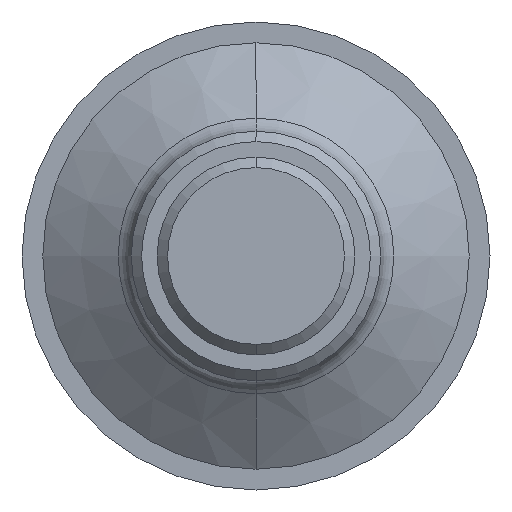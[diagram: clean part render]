
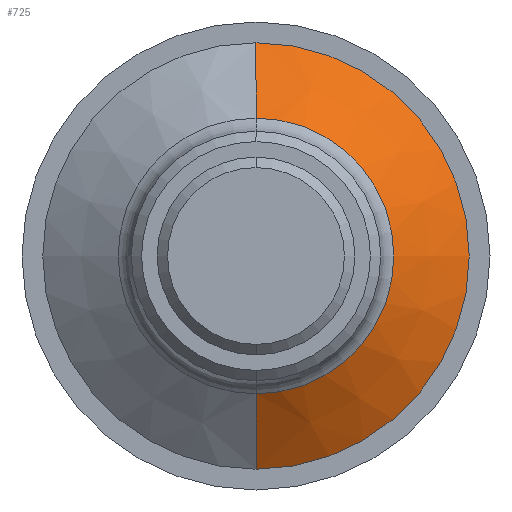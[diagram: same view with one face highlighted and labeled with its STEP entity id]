
A CAD part, front view. The second image highlights one B-rep face of the part: STEP entity #725.
In plain terms, the highlighted conical face has half-angle 54.545 degrees and reference radius 13.26 mm.
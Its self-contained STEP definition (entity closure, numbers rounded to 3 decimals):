
#56 = ORIENTED_EDGE ( 'NONE', *, *, #1582, .F. ) ;
#210 = CARTESIAN_POINT ( 'NONE',  ( 0., -14.27, -13.26 ) ) ;
#242 = CARTESIAN_POINT ( 'NONE',  ( 0., -14.27, 0. ) ) ;
#522 = DIRECTION ( 'NONE',  ( 0., -1., 0. ) ) ;
#531 = AXIS2_PLACEMENT_3D ( 'NONE', #242, #522, #769 ) ;
#545 = VERTEX_POINT ( 'NONE', #2261 ) ;
#577 = CARTESIAN_POINT ( 'NONE',  ( 0., -9.114, 0. ) ) ;
#651 = ORIENTED_EDGE ( 'NONE', *, *, #1293, .F. ) ;
#670 = CARTESIAN_POINT ( 'NONE',  ( 0., -9.114, 20.501 ) ) ;
#688 = ORIENTED_EDGE ( 'NONE', *, *, #1892, .T. ) ;
#725 = ADVANCED_FACE ( 'NONE', ( #807 ), #1023, .T. ) ;
#769 = DIRECTION ( 'NONE',  ( 0., 0., -1. ) ) ;
#807 = FACE_OUTER_BOUND ( 'NONE', #1576, .T. ) ;
#840 = CARTESIAN_POINT ( 'NONE',  ( 0., -14.27, 13.26 ) ) ;
#1023 = CONICAL_SURFACE ( 'NONE', #1876, 13.26, 0.952 ) ;
#1054 = CIRCLE ( 'NONE', #531, 13.26 ) ;
#1139 = DIRECTION ( 'NONE',  ( 0., 0., -1. ) ) ;
#1184 = CARTESIAN_POINT ( 'NONE',  ( 0., -14.27, -13.26 ) ) ;
#1226 = ORIENTED_EDGE ( 'NONE', *, *, #1993, .T. ) ;
#1293 = EDGE_CURVE ( 'NONE', #2507, #2477, #2884, .T. ) ;
#1429 = CIRCLE ( 'NONE', #3003, 20.501 ) ;
#1555 = DIRECTION ( 'NONE',  ( 0., 0., 1. ) ) ;
#1571 = DIRECTION ( 'NONE',  ( 0., -1., 0. ) ) ;
#1576 = EDGE_LOOP ( 'NONE', ( #56, #1226, #688, #651 ) ) ;
#1582 = EDGE_CURVE ( 'NONE', #2598, #2507, #1054, .T. ) ;
#1843 = DIRECTION ( 'NONE',  ( 0., 0.58, 0.815 ) ) ;
#1876 = AXIS2_PLACEMENT_3D ( 'NONE', #2101, #2830, #1555 ) ;
#1892 = EDGE_CURVE ( 'NONE', #545, #2477, #1429, .T. ) ;
#1993 = EDGE_CURVE ( 'NONE', #2598, #545, #2440, .T. ) ;
#2101 = CARTESIAN_POINT ( 'NONE',  ( 0., -14.27, 0. ) ) ;
#2224 = CARTESIAN_POINT ( 'NONE',  ( 0., -14.27, 13.26 ) ) ;
#2261 = CARTESIAN_POINT ( 'NONE',  ( 0., -9.114, -20.501 ) ) ;
#2274 = VECTOR ( 'NONE', #2667, 1000. ) ;
#2440 = LINE ( 'NONE', #1184, #2274 ) ;
#2477 = VERTEX_POINT ( 'NONE', #670 ) ;
#2507 = VERTEX_POINT ( 'NONE', #2224 ) ;
#2598 = VERTEX_POINT ( 'NONE', #210 ) ;
#2667 = DIRECTION ( 'NONE',  ( 0., 0.58, -0.815 ) ) ;
#2830 = DIRECTION ( 'NONE',  ( 0., 1., 0. ) ) ;
#2884 = LINE ( 'NONE', #840, #3004 ) ;
#3003 = AXIS2_PLACEMENT_3D ( 'NONE', #577, #1571, #1139 ) ;
#3004 = VECTOR ( 'NONE', #1843, 1000. ) ;
